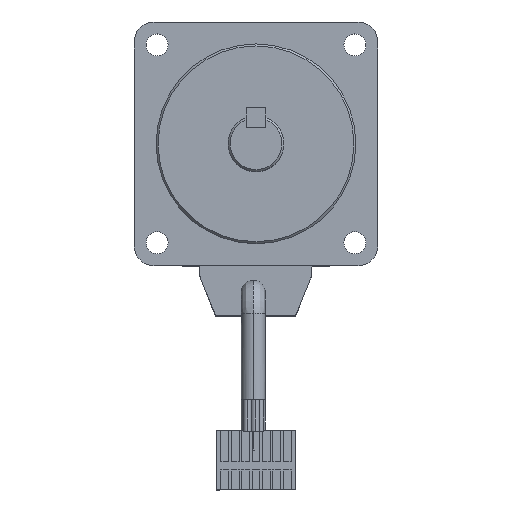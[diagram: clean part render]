
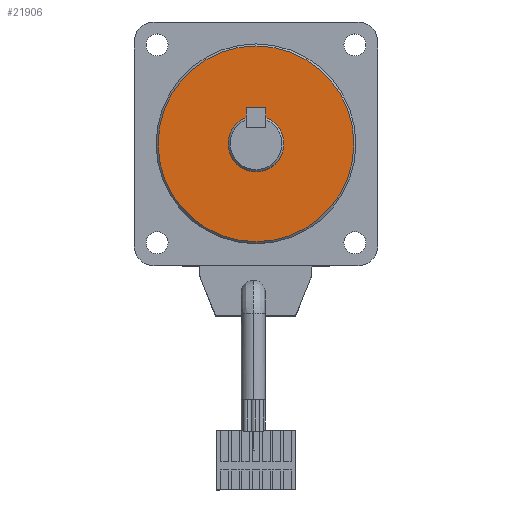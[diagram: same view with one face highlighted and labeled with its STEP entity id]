
A CAD part, top view. The second image highlights one B-rep face of the part: STEP entity #21906.
In plain terms, the highlighted planar face has unit normal (0, 0, 1).
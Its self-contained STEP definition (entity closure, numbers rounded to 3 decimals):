
#1308 = DIRECTION ( 'NONE',  ( 1., 0., 0. ) ) ;
#1492 = CARTESIAN_POINT ( 'NONE',  ( 7., 0., 10. ) ) ;
#2245 = EDGE_CURVE ( 'NONE', #13452, #12417, #2938, .T. ) ;
#2836 = CARTESIAN_POINT ( 'NONE',  ( 24.5, 0., 10. ) ) ;
#2938 = CIRCLE ( 'NONE', #9675, 7. ) ;
#3216 = DIRECTION ( 'NONE',  ( 0., 0., 1. ) ) ;
#5292 = ORIENTED_EDGE ( 'NONE', *, *, #12970, .T. ) ;
#7433 = CIRCLE ( 'NONE', #8787, 7. ) ;
#7541 = CARTESIAN_POINT ( 'NONE',  ( -7., 0., 10. ) ) ;
#7735 = EDGE_CURVE ( 'NONE', #7884, #9594, #13811, .T. ) ;
#7884 = VERTEX_POINT ( 'NONE', #13418 ) ;
#8342 = CARTESIAN_POINT ( 'NONE',  ( 0., 0., 10. ) ) ;
#8787 = AXIS2_PLACEMENT_3D ( 'NONE', #24865, #13057, #1308 ) ;
#8928 = ORIENTED_EDGE ( 'NONE', *, *, #7735, .T. ) ;
#9594 = VERTEX_POINT ( 'NONE', #2836 ) ;
#9675 = AXIS2_PLACEMENT_3D ( 'NONE', #8342, #22137, #10307 ) ;
#9732 = DIRECTION ( 'NONE',  ( 0., 0., 1. ) ) ;
#10307 = DIRECTION ( 'NONE',  ( 1., 0., 0. ) ) ;
#10654 = AXIS2_PLACEMENT_3D ( 'NONE', #21564, #9732, #23546 ) ;
#10961 = DIRECTION ( 'NONE',  ( 0., 0., 1. ) ) ;
#11256 = CIRCLE ( 'NONE', #10654, 24.5 ) ;
#11689 = EDGE_LOOP ( 'NONE', ( #16884, #19984 ) ) ;
#11717 = AXIS2_PLACEMENT_3D ( 'NONE', #15007, #3216, #16998 ) ;
#11928 = FACE_BOUND ( 'NONE', #11689, .T. ) ;
#12417 = VERTEX_POINT ( 'NONE', #7541 ) ;
#12970 = EDGE_CURVE ( 'NONE', #9594, #7884, #11256, .T. ) ;
#13057 = DIRECTION ( 'NONE',  ( 0., 0., 1. ) ) ;
#13418 = CARTESIAN_POINT ( 'NONE',  ( -24.5, 0., 10. ) ) ;
#13452 = VERTEX_POINT ( 'NONE', #1492 ) ;
#13811 = CIRCLE ( 'NONE', #11717, 24.5 ) ;
#15007 = CARTESIAN_POINT ( 'NONE',  ( 0., 0., 10. ) ) ;
#16646 = EDGE_CURVE ( 'NONE', #12417, #13452, #7433, .T. ) ;
#16869 = CARTESIAN_POINT ( 'NONE',  ( 0., 0., 10. ) ) ;
#16884 = ORIENTED_EDGE ( 'NONE', *, *, #16646, .F. ) ;
#16998 = DIRECTION ( 'NONE',  ( 1., 0., 0. ) ) ;
#19984 = ORIENTED_EDGE ( 'NONE', *, *, #2245, .F. ) ;
#20235 = AXIS2_PLACEMENT_3D ( 'NONE', #16869, #10961, #24742 ) ;
#21564 = CARTESIAN_POINT ( 'NONE',  ( 0., 0., 10. ) ) ;
#21906 = ADVANCED_FACE ( 'NONE', ( #22437, #11928 ), #22800, .T. ) ;
#22137 = DIRECTION ( 'NONE',  ( 0., 0., 1. ) ) ;
#22437 = FACE_OUTER_BOUND ( 'NONE', #24235, .T. ) ;
#22800 = PLANE ( 'NONE',  #20235 ) ;
#23546 = DIRECTION ( 'NONE',  ( 1., 0., 0. ) ) ;
#24235 = EDGE_LOOP ( 'NONE', ( #8928, #5292 ) ) ;
#24742 = DIRECTION ( 'NONE',  ( 1., 0., 0. ) ) ;
#24865 = CARTESIAN_POINT ( 'NONE',  ( 0., 0., 10. ) ) ;
